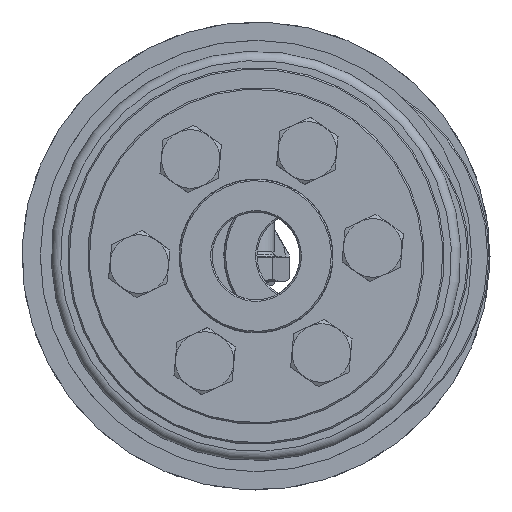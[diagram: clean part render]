
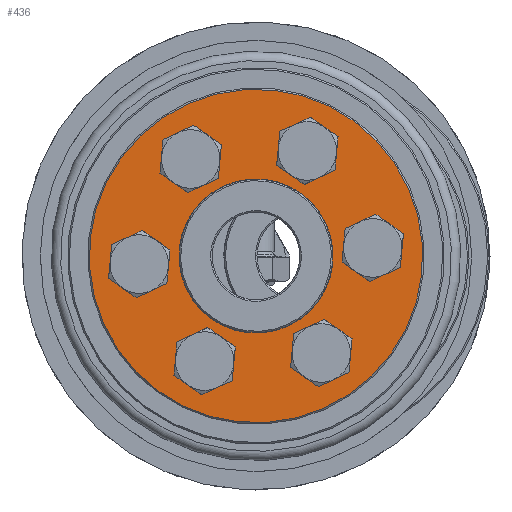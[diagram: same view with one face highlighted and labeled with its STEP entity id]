
A CAD part, left-side view. The second image highlights one B-rep face of the part: STEP entity #436.
In plain terms, the highlighted planar face has unit normal (-1, 0, 0).
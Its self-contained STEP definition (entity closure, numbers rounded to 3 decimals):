
#436 = ADVANCED_FACE( 'NONE', ( #753, #754, #755, #756, #757, #758, #759, #760 ), #761, .F. );
#753 = FACE_OUTER_BOUND( '', #1391, .T. );
#754 = FACE_BOUND( '', #1392, .T. );
#755 = FACE_BOUND( '', #1393, .T. );
#756 = FACE_BOUND( '', #1394, .T. );
#757 = FACE_BOUND( '', #1395, .T. );
#758 = FACE_BOUND( '', #1396, .T. );
#759 = FACE_BOUND( '', #1397, .T. );
#760 = FACE_BOUND( '', #1398, .T. );
#761 = PLANE( '', #1399 );
#1391 = EDGE_LOOP( '', ( #2153 ) );
#1392 = EDGE_LOOP( '', ( #2154 ) );
#1393 = EDGE_LOOP( '', ( #2155 ) );
#1394 = EDGE_LOOP( '', ( #2156 ) );
#1395 = EDGE_LOOP( '', ( #2157 ) );
#1396 = EDGE_LOOP( '', ( #2158 ) );
#1397 = EDGE_LOOP( '', ( #2159 ) );
#1398 = EDGE_LOOP( '', ( #2160 ) );
#1399 = AXIS2_PLACEMENT_3D( '', #2161, #2162, #2163 );
#2153 = ORIENTED_EDGE( '', *, *, #3246, .T. );
#2154 = ORIENTED_EDGE( '', *, *, #3247, .T. );
#2155 = ORIENTED_EDGE( '', *, *, #3248, .T. );
#2156 = ORIENTED_EDGE( '', *, *, #3244, .T. );
#2157 = ORIENTED_EDGE( '', *, *, #3249, .T. );
#2158 = ORIENTED_EDGE( '', *, *, #3250, .T. );
#2159 = ORIENTED_EDGE( '', *, *, #3251, .T. );
#2160 = ORIENTED_EDGE( '', *, *, #3252, .F. );
#2161 = CARTESIAN_POINT( '', ( 0., 10.5, 0. ) );
#2162 = DIRECTION( '', ( 1., 0., 0. ) );
#2163 = DIRECTION( '', ( 0., 1., 0. ) );
#3244 = EDGE_CURVE( 'NONE', #3612, #3612, #3613, .T. );
#3246 = EDGE_CURVE( 'NONE', #3616, #3616, #3617, .T. );
#3247 = EDGE_CURVE( 'NONE', #3618, #3618, #3619, .T. );
#3248 = EDGE_CURVE( 'NONE', #3620, #3620, #3621, .T. );
#3249 = EDGE_CURVE( 'NONE', #3622, #3622, #3623, .T. );
#3250 = EDGE_CURVE( 'NONE', #3624, #3624, #3625, .T. );
#3251 = EDGE_CURVE( 'NONE', #3626, #3626, #3627, .T. );
#3252 = EDGE_CURVE( 'NONE', #3628, #3628, #3629, .T. );
#3612 = VERTEX_POINT( '', #4222 );
#3613 = CIRCLE( '', #4223, 2.75 );
#3616 = VERTEX_POINT( '', #4226 );
#3617 = CIRCLE( '', #4227, 22.8 );
#3618 = VERTEX_POINT( '', #4228 );
#3619 = CIRCLE( '', #4229, 2.75 );
#3620 = VERTEX_POINT( '', #4230 );
#3621 = CIRCLE( '', #4231, 2.75 );
#3622 = VERTEX_POINT( '', #4232 );
#3623 = CIRCLE( '', #4233, 2.75 );
#3624 = VERTEX_POINT( '', #4234 );
#3625 = CIRCLE( '', #4235, 2.75 );
#3626 = VERTEX_POINT( '', #4236 );
#3627 = CIRCLE( '', #4237, 2.75 );
#3628 = VERTEX_POINT( '', #4238 );
#3629 = CIRCLE( '', #4239, 10.5 );
#4222 = CARTESIAN_POINT( '', ( 0., -16., -2.75 ) );
#4223 = AXIS2_PLACEMENT_3D( '', #5219, #5220, #5221 );
#4226 = CARTESIAN_POINT( '', ( 0., 0., -22.8 ) );
#4227 = AXIS2_PLACEMENT_3D( '', #5225, #5226, #5227 );
#4228 = CARTESIAN_POINT( '', ( 0., 8., 11.106 ) );
#4229 = AXIS2_PLACEMENT_3D( '', #5228, #5229, #5230 );
#4230 = CARTESIAN_POINT( '', ( 0., -8., 11.106 ) );
#4231 = AXIS2_PLACEMENT_3D( '', #5231, #5232, #5233 );
#4232 = CARTESIAN_POINT( '', ( 0., -8., -16.606 ) );
#4233 = AXIS2_PLACEMENT_3D( '', #5234, #5235, #5236 );
#4234 = CARTESIAN_POINT( '', ( 0., 8., -16.606 ) );
#4235 = AXIS2_PLACEMENT_3D( '', #5237, #5238, #5239 );
#4236 = CARTESIAN_POINT( '', ( 0., 16., -2.75 ) );
#4237 = AXIS2_PLACEMENT_3D( '', #5240, #5241, #5242 );
#4238 = CARTESIAN_POINT( '', ( 0., 0., 10.5 ) );
#4239 = AXIS2_PLACEMENT_3D( '', #5243, #5244, #5245 );
#5219 = CARTESIAN_POINT( '', ( 0., -16., 0. ) );
#5220 = DIRECTION( '', ( 1., 0., 0. ) );
#5221 = DIRECTION( '', ( 0., 0., -1. ) );
#5225 = CARTESIAN_POINT( '', ( 0., 0., 0. ) );
#5226 = DIRECTION( '', ( -1., 0., 0. ) );
#5227 = DIRECTION( '', ( 0., 0., -1. ) );
#5228 = CARTESIAN_POINT( '', ( 0., 8., 13.856 ) );
#5229 = DIRECTION( '', ( 1., 0., 0. ) );
#5230 = DIRECTION( '', ( 0., 0., -1. ) );
#5231 = CARTESIAN_POINT( '', ( 0., -8., 13.856 ) );
#5232 = DIRECTION( '', ( 1., 0., 0. ) );
#5233 = DIRECTION( '', ( 0., 0., -1. ) );
#5234 = CARTESIAN_POINT( '', ( 0., -8., -13.856 ) );
#5235 = DIRECTION( '', ( 1., 0., 0. ) );
#5236 = DIRECTION( '', ( 0., 0., -1. ) );
#5237 = CARTESIAN_POINT( '', ( 0., 8., -13.856 ) );
#5238 = DIRECTION( '', ( 1., 0., 0. ) );
#5239 = DIRECTION( '', ( 0., 0., -1. ) );
#5240 = CARTESIAN_POINT( '', ( 0., 16., 0. ) );
#5241 = DIRECTION( '', ( 1., 0., 0. ) );
#5242 = DIRECTION( '', ( 0., 0., -1. ) );
#5243 = CARTESIAN_POINT( '', ( 0., 0., 0. ) );
#5244 = DIRECTION( '', ( -1., 0., 0. ) );
#5245 = DIRECTION( '', ( 0., 0., 1. ) );
